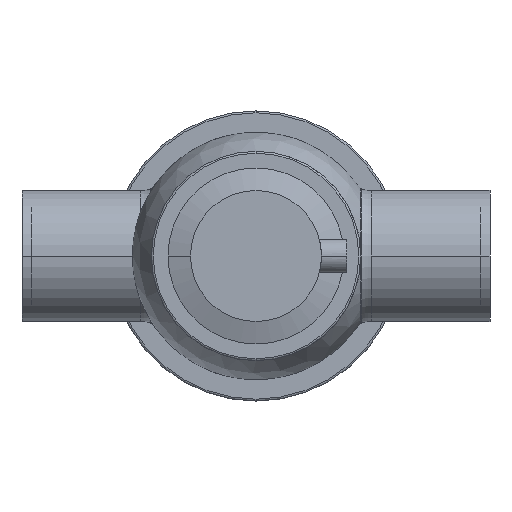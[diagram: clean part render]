
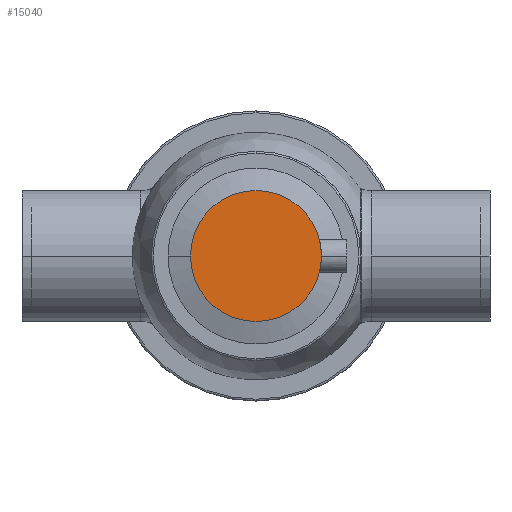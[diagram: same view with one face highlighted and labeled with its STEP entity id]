
A CAD part, front view. The second image highlights one B-rep face of the part: STEP entity #15040.
In plain terms, the highlighted planar face has unit normal (0, -1, 0).
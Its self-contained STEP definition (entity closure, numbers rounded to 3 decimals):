
#9550=CARTESIAN_POINT('',(35.,-92.85,0.));
#9560=VERTEX_POINT('',#9550);
#14800=CARTESIAN_POINT('',(-35.,-92.85,0.));
#14810=VERTEX_POINT('',#14800);
#14840=CARTESIAN_POINT('',(0.,-92.85,0.));
#14850=DIRECTION('',(0.,-1.,0.));
#14860=DIRECTION('',(-1.,0.,0.));
#14870=AXIS2_PLACEMENT_3D('',#14840,#14850,#14860);
#14880=CIRCLE('',#14870,35.);
#14890=EDGE_CURVE('',#14810,#9560,#14880,.T.);
#14940=CARTESIAN_POINT('',(0.,-92.85,0.));
#14950=DIRECTION('',(0.,-1.,0.));
#14960=DIRECTION('',(-1.,0.,0.));
#14970=AXIS2_PLACEMENT_3D('',#14940,#14950,#14960);
#14980=PLANE('',#14970);
#14990=EDGE_CURVE('',#9560,#14810,#14880,.T.);
#15000=ORIENTED_EDGE('',*,*,#14990,.T.);
#15010=ORIENTED_EDGE('',*,*,#14890,.T.);
#15020=EDGE_LOOP('',(#15010,#15000));
#15030=FACE_OUTER_BOUND('',#15020,.T.);
#15040=ADVANCED_FACE('',(#15030),#14980,.T.);
